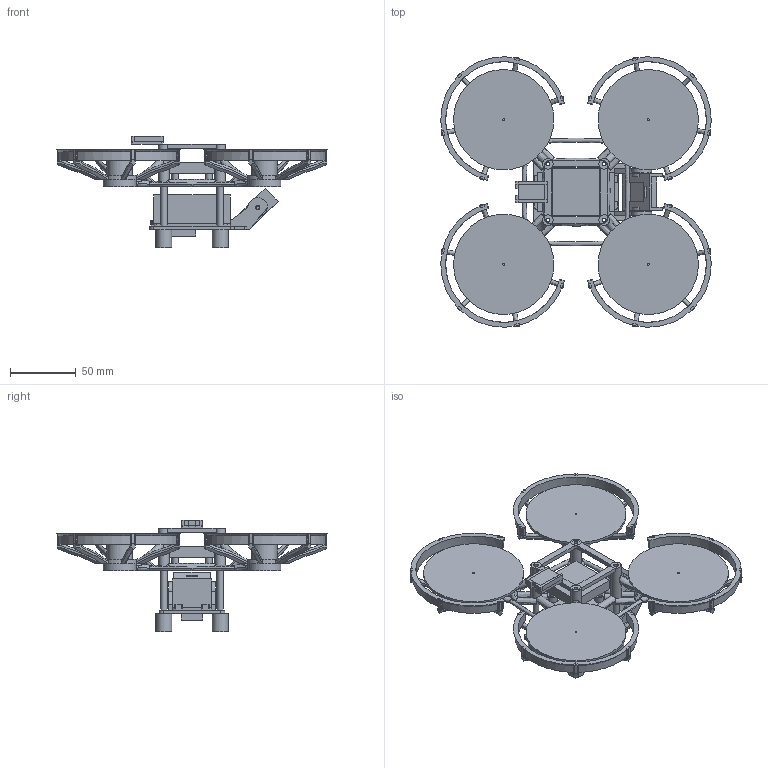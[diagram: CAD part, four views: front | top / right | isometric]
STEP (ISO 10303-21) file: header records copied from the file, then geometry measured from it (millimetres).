
FILE_DESCRIPTION(('Open CASCADE Model'),'2;1');
FILE_NAME('Open CASCADE Shape Model','2026-10-11T20:54:00',('Author'),( 'Open CASCADE'),'Open CASCADE STEP processor 7.8','Open CASCADE 7.8' ,'Unknown');
FILE_SCHEMA(('AUTOMOTIVE_DESIGN { 1 0 10303 214 1 1 1 1 }'));
Length unit declared in the file: millimetre
Products named in the file (38): CDE1302_Astra_01_v2; Frame_PETG; Guard_1_PETG; Guard_2_PETG; Guard_3_PETG; Guard_4_PETG; BottomPlate_PETG; BatteryPad_TPU; CameraCradle_TPU; Foot_1_TPU; Foot_2_TPU; Foot_3_TPU; Foot_4_TPU; Motor_1; Shaft_1; Prop_1; Motor_2; Shaft_2; Prop_2; Motor_3; Shaft_3; Prop_3; Motor_4; Shaft_4; Prop_4; Battery; FC; ELRS; Camera; MTF02P; Standoff_1; Standoff_2; Standoff_3; Standoff_4; Isolator_1; Isolator_2; Isolator_3; Isolator_4
Assembly tree (37 placements, depth 2):
  CDE1302_Astra_01_v2
    Frame_PETG
    Guard_1_PETG
    Guard_2_PETG
    Guard_3_PETG
    Guard_4_PETG
    BottomPlate_PETG
    BatteryPad_TPU
    CameraCradle_TPU
    Foot_1_TPU
    Foot_2_TPU
    Foot_3_TPU
    Foot_4_TPU
    Motor_1
    Shaft_1
    Prop_1
    Motor_2
    Shaft_2
    Prop_2
    Motor_3
    Shaft_3
    Prop_3
    Motor_4
    Shaft_4
    Prop_4
    Battery
    FC
    ELRS
    Camera
    MTF02P
    Standoff_1
    Standoff_2
    Standoff_3
    Standoff_4
    Isolator_1
    Isolator_2
    Isolator_3
    Isolator_4
Bounding box: 205.56 x 205.56 x 84.7 mm (x, y, z)
Volume: 192641.5 mm3; surface area: 142821.9 mm2
Topology: 37 solids, 37 shells, 1863 faces, 5104 edges, 3332 vertices
Faces by surface type: plane 1191, cylinder 432, bspline 216, cone 24
Full cylindrical faces by diameter (mm): 1.5 x4, 2.3 x8, 2.4 x8, 2.5 x2, 2.8 x8, 2.9 x16, 3.3 x2, 4.8 x4, 5 x16, 8 x8, 12 x4, 19.4 x4, 25 x4, 76.2 x4
Entity records: 295311 total; most frequent: CARTESIAN_POINT 201190, DIRECTION 14645, ORIENTED_EDGE 10184, PCURVE 10184, DEFINITIONAL_REPRESENTATION 10184, LINE 8540, VECTOR 8540, EDGE_CURVE 5092
